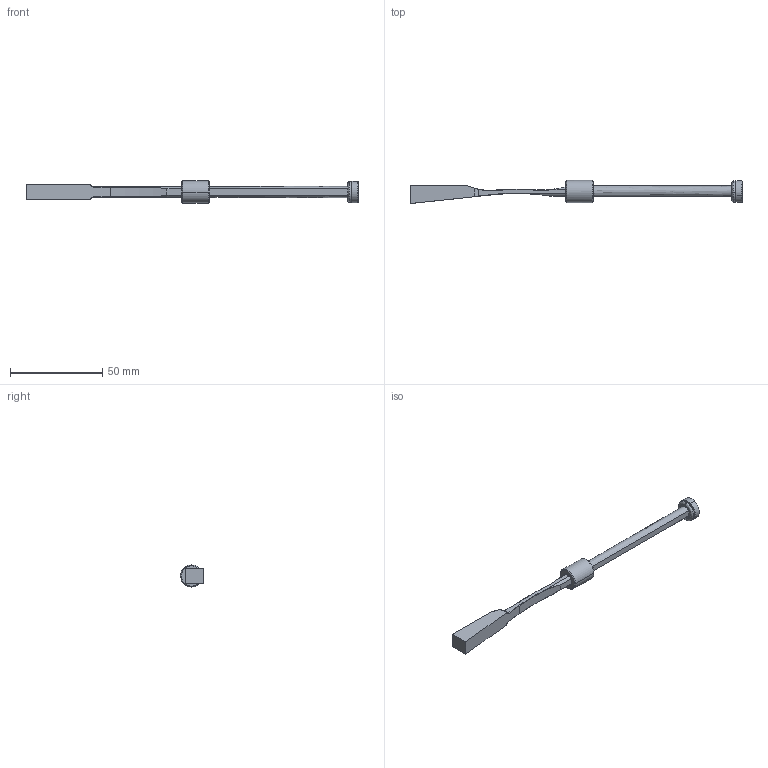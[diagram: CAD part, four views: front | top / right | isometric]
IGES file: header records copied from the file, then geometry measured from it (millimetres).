
Start section: START RECORD GO HERE.
Global section: file name: pw060830_injection.igs; native system: DASSAULT SYSTEMES CATIA V5 R20 - www.3ds.com; preprocessor: CATIA Version 5 Release 20 ; author: Utente; organization: NB04-ASUS; date: 20201108.135048; units: millimetre
Bounding box: 180 x 12.5 x 12 mm (x, y, z)
Surface area: 6048.6 mm2 (no closed solid volume)
Topology: 0 solids, 0 shells, 106 faces, 486 edges, 482 vertices
Faces by surface type: revolution 70, plane 32, bspline 4
